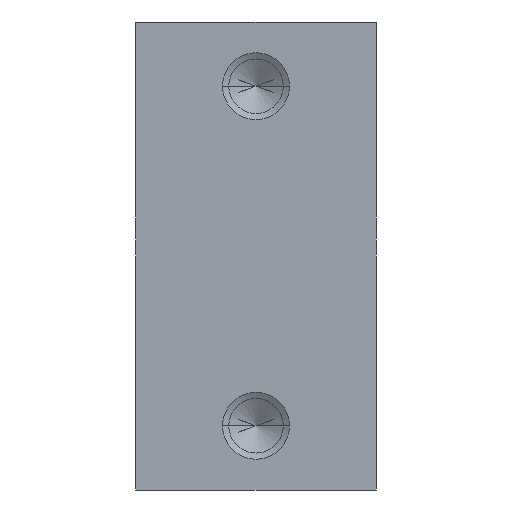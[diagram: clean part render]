
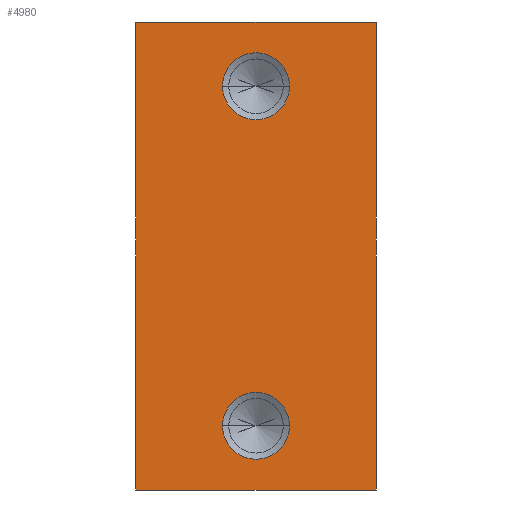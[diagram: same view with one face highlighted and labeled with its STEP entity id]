
A CAD part, front view. The second image highlights one B-rep face of the part: STEP entity #4980.
In plain terms, the highlighted planar face has unit normal (0, -1, 0).
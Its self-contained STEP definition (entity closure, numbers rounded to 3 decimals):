
#2320=CARTESIAN_POINT('',(18.,-36.5,35.));
#2330=VERTEX_POINT('',#2320);
#2360=CARTESIAN_POINT('',(0.,-36.5,35.));
#2370=DIRECTION('',(1.,0.,0.));
#2380=VECTOR('',#2370,1.);
#2390=LINE('',#2360,#2380);
#2400=CARTESIAN_POINT('',(-18.,-36.5,35.));
#2410=VERTEX_POINT('',#2400);
#2420=EDGE_CURVE('',#2410,#2330,#2390,.T.);
#2900=CARTESIAN_POINT('',(0.,-36.5,-35.));
#2910=DIRECTION('',(-1.,0.,0.));
#2920=VECTOR('',#2910,1.);
#2930=LINE('',#2900,#2920);
#2940=CARTESIAN_POINT('',(18.,-36.5,-35.));
#2950=VERTEX_POINT('',#2940);
#2960=CARTESIAN_POINT('',(-18.,-36.5,-35.));
#2970=VERTEX_POINT('',#2960);
#2980=EDGE_CURVE('',#2950,#2970,#2930,.T.);
#4230=CARTESIAN_POINT('',(18.,-36.5,0.));
#4240=DIRECTION('',(0.,0.,1.));
#4250=VECTOR('',#4240,1.);
#4260=LINE('',#4230,#4250);
#4270=EDGE_CURVE('',#2950,#2330,#4260,.T.);
#4520=CARTESIAN_POINT('',(18.,-36.5,35.));
#4530=DIRECTION('',(0.,-1.,0.));
#4540=DIRECTION('',(1.,0.,0.));
#4550=AXIS2_PLACEMENT_3D('',#4520,#4530,#4540);
#4560=PLANE('',#4550);
#4570=ORIENTED_EDGE('',*,*,#2420,.F.);
#4580=ORIENTED_EDGE('',*,*,#4270,.T.);
#4590=ORIENTED_EDGE('',*,*,#2980,.F.);
#4600=CARTESIAN_POINT('',(-18.,-36.5,0.));
#4610=DIRECTION('',(0.,0.,1.));
#4620=VECTOR('',#4610,1.);
#4630=LINE('',#4600,#4620);
#4640=EDGE_CURVE('',#2970,#2410,#4630,.T.);
#4650=ORIENTED_EDGE('',*,*,#4640,.F.);
#4660=EDGE_LOOP('',(#4650,#4590,#4580,#4570));
#4670=FACE_OUTER_BOUND('',#4660,.T.);
#4680=CARTESIAN_POINT('',(0.,-36.5,-25.4));
#4690=DIRECTION('',(0.,-1.,0.));
#4700=DIRECTION('',(-1.,0.,0.));
#4710=AXIS2_PLACEMENT_3D('',#4680,#4690,#4700);
#4720=CIRCLE('',#4710,5.);
#4730=CARTESIAN_POINT('',(-5.,-36.5,-25.4));
#4740=VERTEX_POINT('',#4730);
#4750=CARTESIAN_POINT('',(5.,-36.5,-25.4));
#4760=VERTEX_POINT('',#4750);
#4770=EDGE_CURVE('',#4740,#4760,#4720,.T.);
#4780=ORIENTED_EDGE('',*,*,#4770,.F.);
#4790=EDGE_CURVE('',#4760,#4740,#4720,.T.);
#4800=ORIENTED_EDGE('',*,*,#4790,.F.);
#4810=EDGE_LOOP('',(#4800,#4780));
#4820=FACE_BOUND('',#4810,.T.);
#4830=CARTESIAN_POINT('',(0.,-36.5,25.4));
#4840=DIRECTION('',(0.,-1.,0.));
#4850=DIRECTION('',(-1.,0.,0.));
#4860=AXIS2_PLACEMENT_3D('',#4830,#4840,#4850);
#4870=CIRCLE('',#4860,5.);
#4880=CARTESIAN_POINT('',(-5.,-36.5,25.4));
#4890=VERTEX_POINT('',#4880);
#4900=CARTESIAN_POINT('',(5.,-36.5,25.4));
#4910=VERTEX_POINT('',#4900);
#4920=EDGE_CURVE('',#4890,#4910,#4870,.T.);
#4930=ORIENTED_EDGE('',*,*,#4920,.F.);
#4940=EDGE_CURVE('',#4910,#4890,#4870,.T.);
#4950=ORIENTED_EDGE('',*,*,#4940,.F.);
#4960=EDGE_LOOP('',(#4950,#4930));
#4970=FACE_BOUND('',#4960,.T.);
#4980=ADVANCED_FACE('',(#4670,#4820,#4970),#4560,.T.);
